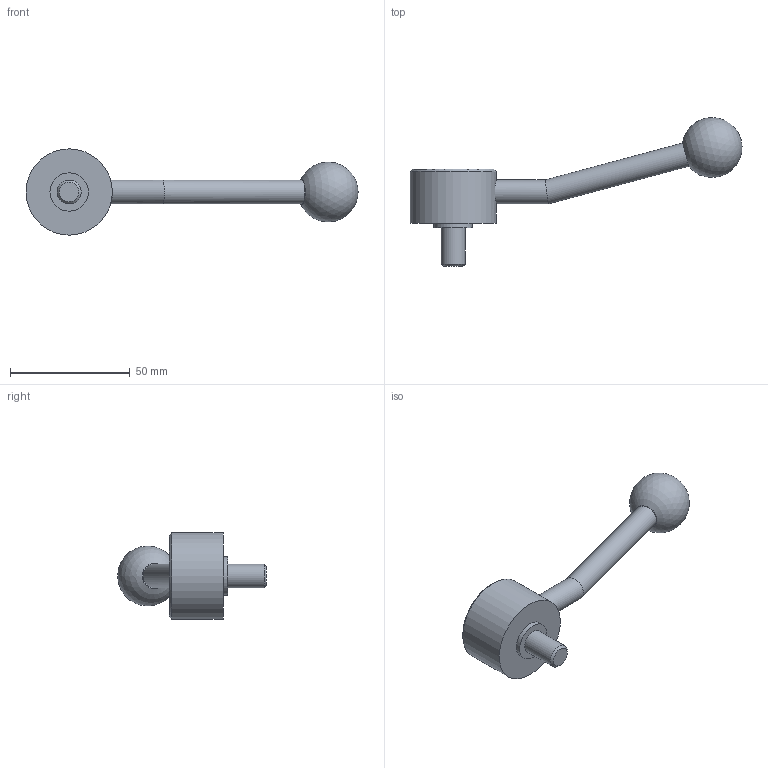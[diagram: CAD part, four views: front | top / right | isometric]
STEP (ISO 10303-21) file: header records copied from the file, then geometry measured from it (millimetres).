
FILE_DESCRIPTION( ( 'STEP AP203' ), '1' );
FILE_NAME( 'C:/Temp/Ganter_Step_05_03_2020/data/2_1/gn_125/gn_125_ms/gn_125_ms_e/Flat Adjustable Lever GN 125-36-M10-16-E.stp', '2020-03-05T11:00:57', ( 'License CC BY-ND 4.0' ), ( 'CADENAS' ), ' ', 'PARTsolutions', ' ' );
FILE_SCHEMA( ( 'CONFIG_CONTROL_DESIGN' ) );
Length unit declared in the file: millimetre
Products named in the file (1): _Flat Adjustable Lever GN 125-36-M10-16-E
Bounding box: 138.41 x 61.94 x 36 mm (x, y, z)
Volume: 38866 mm3; surface area: 9476.7 mm2
Topology: 1 solids, 1 shells, 15 faces, 25 edges, 16 vertices
Faces by surface type: cylinder 6, plane 6, cone 2, sphere 1
Full cylindrical faces by diameter (mm): 10 x3, 16 x1, 26 x1, 36 x1
Entity records: 412 total; most frequent: CARTESIAN_POINT 118, DIRECTION 58, AXIS2_PLACEMENT_3D 29, EDGE_LOOP 28, ORIENTED_EDGE 28, FACE_OUTER_BOUND 21, ADVANCED_FACE 15, VERTEX_POINT 15
